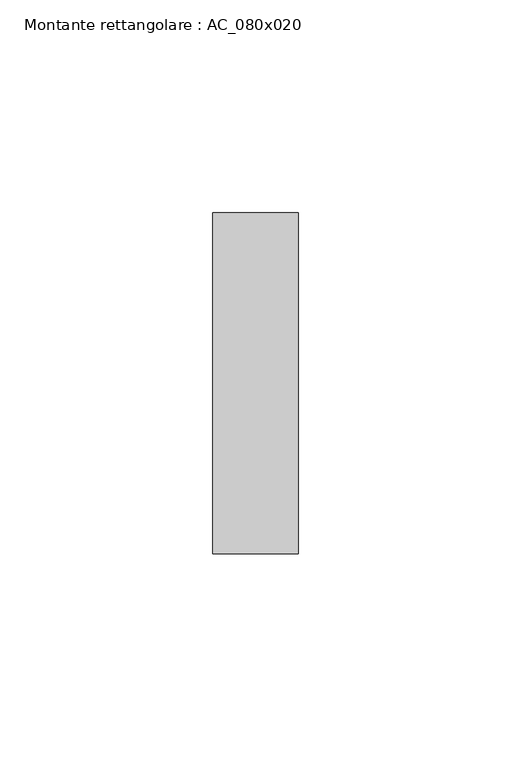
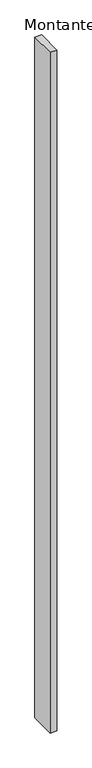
"""IFC4 building model written with IfcOpenShell, lengths in millimetres: member geometry, Montante rettangolare : AC_080x020."""

from ifc_helpers import new_model, si_unit, frame, origin, place, context, project, spatial, polyline, outline, extrude, source, transform, mapped, element, save


def montante_rettangolare_ac_080x020_f5492f73(model_context):
    return source(origin(), model_context, "Body", "SweptSolid", [
        extrude(outline(polyline([(0.0, 40.0), (0.0, -40.0), (-20.0, -40.0), (-20.0, 40.0), (0.0, 40.0)])), frame((0.0, 0.0, -2157.5840728), z_axis=(0.0, 0.0, 1.0), x_axis=(1.0, 0.0, 0.0)), (0.0, 0.0, 1.0), 2157.5840728),
    ])


if __name__ == "__main__":
    model = new_model("IFC4")
    model_context = context("Model", 3, world=origin())
    ifc_project = project(units=[si_unit("LENGTHUNIT", "METRE", prefix="MILLI")], contexts=[model_context])
    site = spatial("IfcSite", under=ifc_project)
    building = spatial("IfcBuilding", under=site)
    placement = place(None, origin())
    montante_rettangolare_ac_080x020_shape = montante_rettangolare_ac_080x020_f5492f73(model_context)
    element("IfcMember", 1, ObjectType="Montante rettangolare : AC_080x020", at=placement, inside=building, context=model_context, shape_type="MappedRepresentation", body=[
        mapped(montante_rettangolare_ac_080x020_shape, transform((0.0, 0.0, 0.0), x_axis=(1.0, 0.0, 0.0), y_axis=(0.0, 1.0, 0.0), z_axis=(0.0, 0.0, 1.0))),
    ])
    save(model, "model.ifc")
